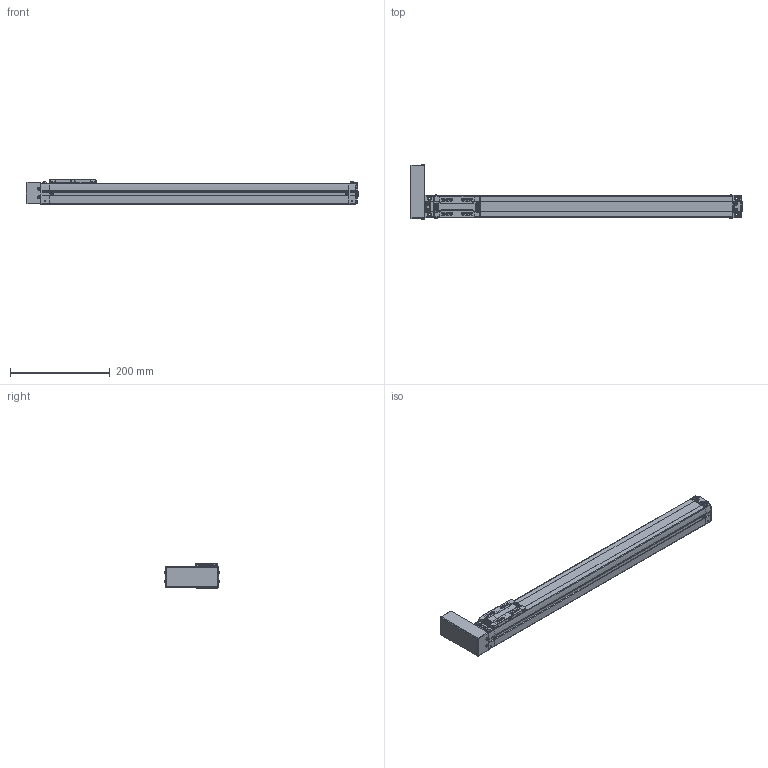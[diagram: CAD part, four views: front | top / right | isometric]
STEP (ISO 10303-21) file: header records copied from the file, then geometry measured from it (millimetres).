
FILE_DESCRIPTION(('STEP AP214'),'1');
FILE_NAME('Z:/Web/3D/SAN45/2013.ver/STP/SAN45ㅁㅁ-500PL.stp','2013-05-15T11:56:43',(' '),(' '),'Spatial InterOp 3D',' ',' ');
FILE_SCHEMA(('automotive_design'));
Length unit declared in the file: millimetre
Products named in the file (28): BODY-SAN45; REAR-SAN45; RRCV-SAN45; BHCS M3 x 6L; BHCS M3 X 6L; FRONT-SAN45; SHAFT; RN8 x 0.75; SSFX-SAN45; SLIDE-SAN45; SLCV-IM45; FHCS M3 x 6L; BTCV-SAN45
Bounding box: 666.15 x 110.13 x 50 mm (x, y, z)
Volume: 1289351.5 mm3; surface area: 189052.6 mm2
Topology: 28 solids, 28 shells, 1729 faces, 4493 edges, 2892 vertices
Faces by surface type: plane 887, cylinder 608, cone 136, bspline 40, sphere 40, torus 12, extrusion 6
Entity records: 71098 total; most frequent: CARTESIAN_POINT 13489, DIRECTION 9333, ORIENTED_EDGE 8866, EDGE_CURVE 4433, AXIS2_PLACEMENT_3D 3291, VERTEX_POINT 2892, VECTOR 2751, LINE 2745
